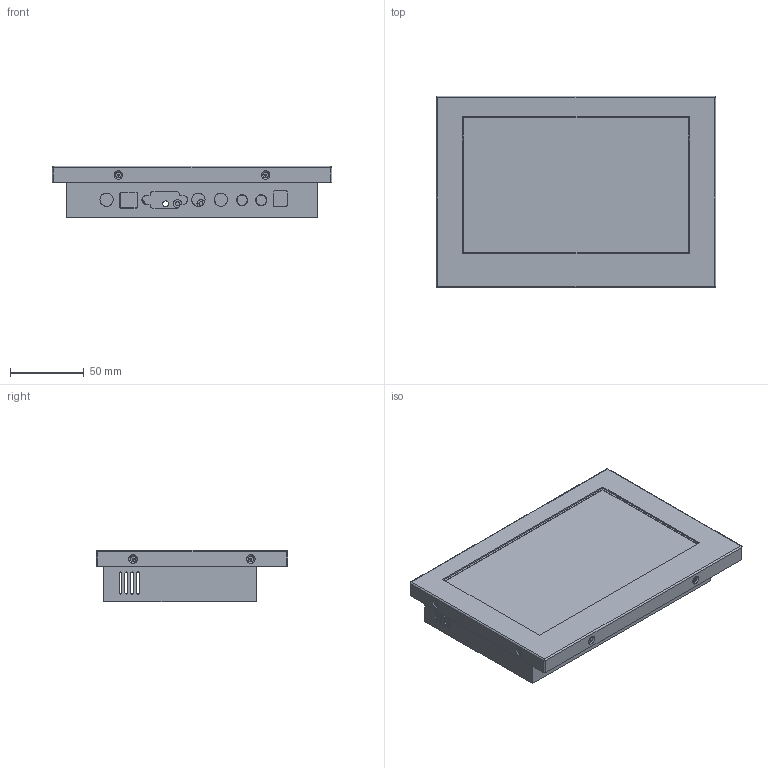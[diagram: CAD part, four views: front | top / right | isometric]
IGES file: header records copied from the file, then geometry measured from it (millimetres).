
Global section: file name: M070A-A-3DS; native system: AutoCAD 2019 – 繁體中文 (Traditional Chinese),62HAutode; preprocessor: sk Translation Framework DWG producer (atf_dwg_producer); organization: unknown; date: 20210621.160238; units: millimetre
Bounding box: 190 x 130 x 35 mm (x, y, z)
Volume: 188413 mm3; surface area: 153519.6 mm2
Topology: 7 solids, 7 shells, 322 faces, 875 edges, 582 vertices
Faces by surface type: bspline 322
